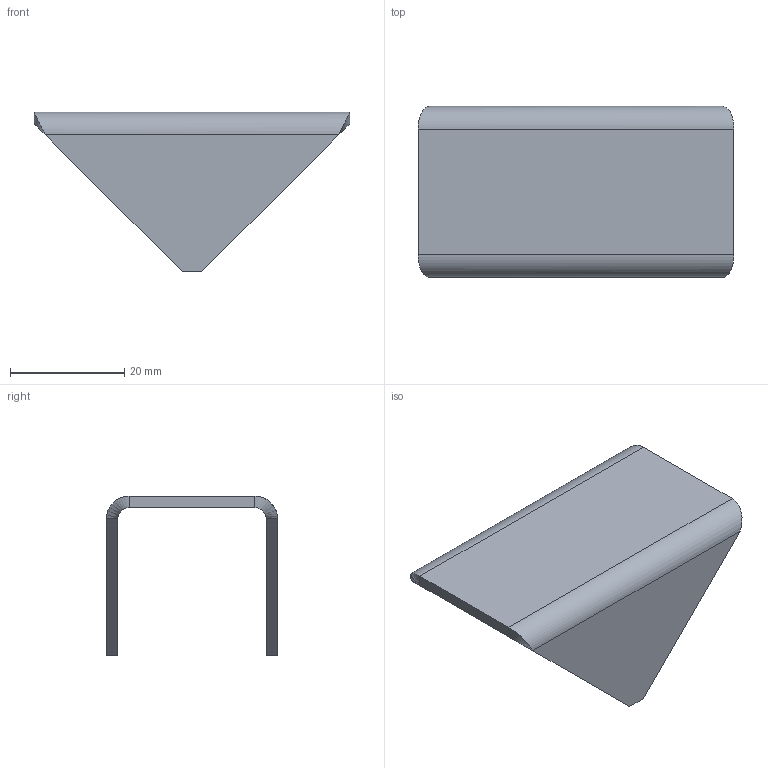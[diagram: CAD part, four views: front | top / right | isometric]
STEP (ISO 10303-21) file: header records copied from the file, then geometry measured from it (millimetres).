
FILE_DESCRIPTION (( 'STEP AP214' ), '1' );
FILE_NAME ('MONO_038-p209_02 (Option 1- Folded).STEP', '2026-03-24T00:39:21', ( '' ), ( '' ), 'SwSTEP 2.0', 'SolidWorks 2024', '' );
FILE_SCHEMA (( 'AUTOMOTIVE_DESIGN' ));
Length unit declared in the file: millimetre
Products named in the file (1): MONO_038-p209_02 (Option 1- Folded)
Bounding box: 55.4 x 30 x 28 mm (x, y, z)
Volume: 6084.4 mm3; surface area: 6499.2 mm2
Topology: 1 solids, 1 shells, 22 faces, 44 edges, 24 vertices
Faces by surface type: plane 14, bspline 4, cylinder 4
Entity records: 655 total; most frequent: CARTESIAN_POINT 223, ORIENTED_EDGE 88, DIRECTION 74, EDGE_CURVE 44, LINE 36, VECTOR 36, VERTEX_POINT 24, FACE_OUTER_BOUND 22
